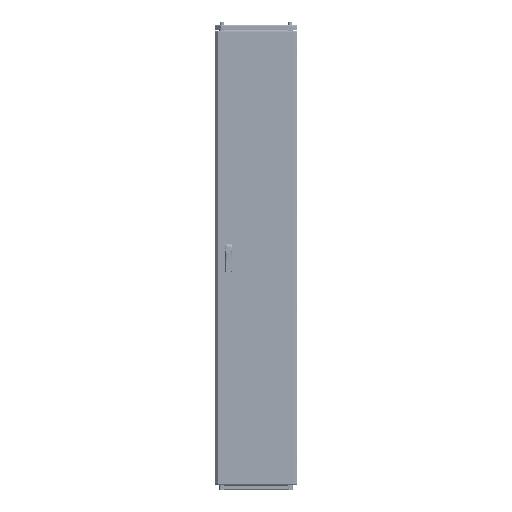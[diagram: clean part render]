
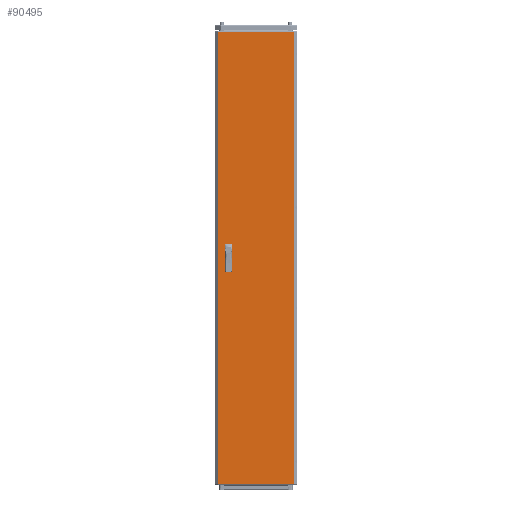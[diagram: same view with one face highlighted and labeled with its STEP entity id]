
A CAD part, top view. The second image highlights one B-rep face of the part: STEP entity #90495.
In plain terms, the highlighted planar face has unit normal (0, 0, 1).
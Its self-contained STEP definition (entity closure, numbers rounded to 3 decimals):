
#243 = CARTESIAN_POINT ( 'NONE',  ( -142.5, -62.5, 0. ) ) ;
#1722 = DIRECTION ( 'NONE',  ( 0., -1., 0. ) ) ;
#4189 = ORIENTED_EDGE ( 'NONE', *, *, #216699, .F. ) ;
#4580 = LINE ( 'NONE', #103411, #47689 ) ;
#5684 = CARTESIAN_POINT ( 'NONE',  ( -117.5, 12.5, 0. ) ) ;
#7613 = VECTOR ( 'NONE', #104338, 1000. ) ;
#13061 = ORIENTED_EDGE ( 'NONE', *, *, #94099, .F. ) ;
#21074 = ORIENTED_EDGE ( 'NONE', *, *, #170491, .T. ) ;
#22563 = VERTEX_POINT ( 'NONE', #243 ) ;
#23592 = DIRECTION ( 'NONE',  ( -1., 0., 0. ) ) ;
#29577 = EDGE_CURVE ( 'NONE', #150253, #122468, #214781, .T. ) ;
#32119 = CARTESIAN_POINT ( 'NONE',  ( -142.5, -12.5, 0. ) ) ;
#39242 = CARTESIAN_POINT ( 'NONE',  ( -177.875, -1069.5, 0. ) ) ;
#39410 = EDGE_CURVE ( 'NONE', #22563, #89694, #103164, .T. ) ;
#40443 = CARTESIAN_POINT ( 'NONE',  ( -142.5, 12.5, 0. ) ) ;
#41912 = LINE ( 'NONE', #119281, #191603 ) ;
#42232 = CARTESIAN_POINT ( 'NONE',  ( -177.875, -1069.5, 0. ) ) ;
#43236 = CARTESIAN_POINT ( 'NONE',  ( 0., 0., 0. ) ) ;
#46192 = EDGE_CURVE ( 'NONE', #56729, #22563, #96738, .T. ) ;
#47689 = VECTOR ( 'NONE', #23592, 1000. ) ;
#51635 = ORIENTED_EDGE ( 'NONE', *, *, #39410, .F. ) ;
#56729 = VERTEX_POINT ( 'NONE', #32119 ) ;
#58752 = LINE ( 'NONE', #42232, #180467 ) ;
#63144 = ORIENTED_EDGE ( 'NONE', *, *, #128901, .F. ) ;
#65833 = CARTESIAN_POINT ( 'NONE',  ( -177.875, -1069.5, 0. ) ) ;
#67708 = CARTESIAN_POINT ( 'NONE',  ( 177.875, 1069.5, 0. ) ) ;
#69783 = EDGE_LOOP ( 'NONE', ( #63144, #196154, #13061, #110825 ) ) ;
#79456 = VERTEX_POINT ( 'NONE', #234237 ) ;
#82531 = DIRECTION ( 'NONE',  ( 0., 0., -1. ) ) ;
#87973 = EDGE_CURVE ( 'NONE', #79456, #56729, #41912, .T. ) ;
#89694 = VERTEX_POINT ( 'NONE', #163238 ) ;
#90154 = LINE ( 'NONE', #167489, #116780 ) ;
#90495 = ADVANCED_FACE ( 'NONE', ( #237122, #142114, #218150 ), #102782, .F. ) ;
#91437 = VERTEX_POINT ( 'NONE', #65833 ) ;
#94099 = EDGE_CURVE ( 'NONE', #122468, #150296, #197576, .T. ) ;
#96185 = EDGE_LOOP ( 'NONE', ( #226312, #4189, #51635, #139968 ) ) ;
#96331 = LINE ( 'NONE', #39242, #166358 ) ;
#96738 = LINE ( 'NONE', #113287, #129239 ) ;
#99113 = CARTESIAN_POINT ( 'NONE',  ( -117.5, 62.5, 0. ) ) ;
#102782 = PLANE ( 'NONE',  #115050 ) ;
#103164 = LINE ( 'NONE', #143718, #227356 ) ;
#103411 = CARTESIAN_POINT ( 'NONE',  ( -142.5, 62.5, 0. ) ) ;
#104338 = DIRECTION ( 'NONE',  ( -1., 0., 0. ) ) ;
#108511 = EDGE_CURVE ( 'NONE', #91437, #175162, #96331, .T. ) ;
#109271 = VECTOR ( 'NONE', #147528, 1000. ) ;
#110825 = ORIENTED_EDGE ( 'NONE', *, *, #29577, .F. ) ;
#113287 = CARTESIAN_POINT ( 'NONE',  ( -142.5, -62.5, 0. ) ) ;
#115050 = AXIS2_PLACEMENT_3D ( 'NONE', #43236, #82531, #134968 ) ;
#116780 = VECTOR ( 'NONE', #244728, 1000. ) ;
#119281 = CARTESIAN_POINT ( 'NONE',  ( -142.5, -12.5, 0. ) ) ;
#122468 = VERTEX_POINT ( 'NONE', #132830 ) ;
#128901 = EDGE_CURVE ( 'NONE', #230670, #150253, #4580, .T. ) ;
#129239 = VECTOR ( 'NONE', #209612, 1000. ) ;
#132694 = CARTESIAN_POINT ( 'NONE',  ( -117.5, 12.5, 0. ) ) ;
#132830 = CARTESIAN_POINT ( 'NONE',  ( -142.5, 12.5, 0. ) ) ;
#133140 = VERTEX_POINT ( 'NONE', #153512 ) ;
#134448 = ORIENTED_EDGE ( 'NONE', *, *, #165146, .T. ) ;
#134584 = CARTESIAN_POINT ( 'NONE',  ( 177.875, -1069.5, 0. ) ) ;
#134968 = DIRECTION ( 'NONE',  ( -1., 0., 0. ) ) ;
#139921 = CARTESIAN_POINT ( 'NONE',  ( -177.875, 1069.5, 0. ) ) ;
#139968 = ORIENTED_EDGE ( 'NONE', *, *, #46192, .F. ) ;
#142114 = FACE_BOUND ( 'NONE', #96185, .T. ) ;
#143718 = CARTESIAN_POINT ( 'NONE',  ( -142.5, -62.5, 0. ) ) ;
#146262 = LINE ( 'NONE', #223565, #109271 ) ;
#147528 = DIRECTION ( 'NONE',  ( 0., 1., 0. ) ) ;
#150253 = VERTEX_POINT ( 'NONE', #202124 ) ;
#150296 = VERTEX_POINT ( 'NONE', #5684 ) ;
#150425 = LINE ( 'NONE', #132694, #244793 ) ;
#153512 = CARTESIAN_POINT ( 'NONE',  ( -177.875, 1069.5, 0. ) ) ;
#156514 = CARTESIAN_POINT ( 'NONE',  ( -142.5, 12.5, 0. ) ) ;
#163238 = CARTESIAN_POINT ( 'NONE',  ( -117.5, -62.5, 0. ) ) ;
#165146 = EDGE_CURVE ( 'NONE', #133140, #91437, #58752, .T. ) ;
#166358 = VECTOR ( 'NONE', #173682, 1000. ) ;
#167489 = CARTESIAN_POINT ( 'NONE',  ( 177.875, -1069.5, 0. ) ) ;
#168978 = ORIENTED_EDGE ( 'NONE', *, *, #213522, .T. ) ;
#170491 = EDGE_CURVE ( 'NONE', #175162, #195329, #90154, .T. ) ;
#173682 = DIRECTION ( 'NONE',  ( 1., 0., 0. ) ) ;
#174850 = DIRECTION ( 'NONE',  ( 1., 0., 0. ) ) ;
#175162 = VERTEX_POINT ( 'NONE', #134584 ) ;
#180467 = VECTOR ( 'NONE', #1722, 1000. ) ;
#191603 = VECTOR ( 'NONE', #196590, 1000. ) ;
#195329 = VERTEX_POINT ( 'NONE', #67708 ) ;
#196154 = ORIENTED_EDGE ( 'NONE', *, *, #208991, .F. ) ;
#196590 = DIRECTION ( 'NONE',  ( -1., 0., 0. ) ) ;
#197576 = LINE ( 'NONE', #40443, #225369 ) ;
#202124 = CARTESIAN_POINT ( 'NONE',  ( -142.5, 62.5, 0. ) ) ;
#208991 = EDGE_CURVE ( 'NONE', #150296, #230670, #150425, .T. ) ;
#209612 = DIRECTION ( 'NONE',  ( 0., -1., 0. ) ) ;
#213235 = VECTOR ( 'NONE', #250254, 1000. ) ;
#213522 = EDGE_CURVE ( 'NONE', #195329, #133140, #237409, .T. ) ;
#214781 = LINE ( 'NONE', #156514, #213235 ) ;
#216699 = EDGE_CURVE ( 'NONE', #89694, #79456, #146262, .T. ) ;
#218150 = FACE_OUTER_BOUND ( 'NONE', #248700, .T. ) ;
#218520 = DIRECTION ( 'NONE',  ( 1., 0., 0. ) ) ;
#223565 = CARTESIAN_POINT ( 'NONE',  ( -117.5, -62.5, 0. ) ) ;
#224711 = ORIENTED_EDGE ( 'NONE', *, *, #108511, .T. ) ;
#225369 = VECTOR ( 'NONE', #174850, 1000. ) ;
#226312 = ORIENTED_EDGE ( 'NONE', *, *, #87973, .F. ) ;
#227356 = VECTOR ( 'NONE', #218520, 1000. ) ;
#227694 = DIRECTION ( 'NONE',  ( 0., 1., 0. ) ) ;
#230670 = VERTEX_POINT ( 'NONE', #99113 ) ;
#234237 = CARTESIAN_POINT ( 'NONE',  ( -117.5, -12.5, 0. ) ) ;
#237122 = FACE_BOUND ( 'NONE', #69783, .T. ) ;
#237409 = LINE ( 'NONE', #139921, #7613 ) ;
#244728 = DIRECTION ( 'NONE',  ( 0., 1., 0. ) ) ;
#244793 = VECTOR ( 'NONE', #227694, 1000. ) ;
#248700 = EDGE_LOOP ( 'NONE', ( #21074, #168978, #134448, #224711 ) ) ;
#250254 = DIRECTION ( 'NONE',  ( 0., -1., 0. ) ) ;
